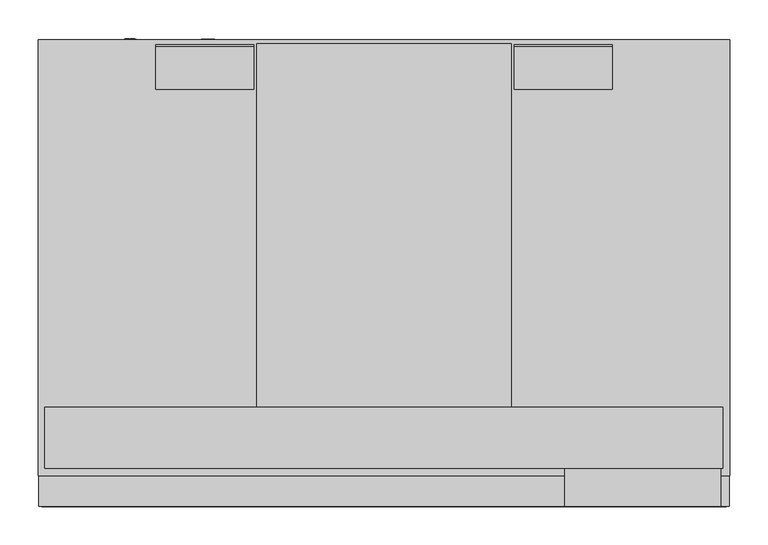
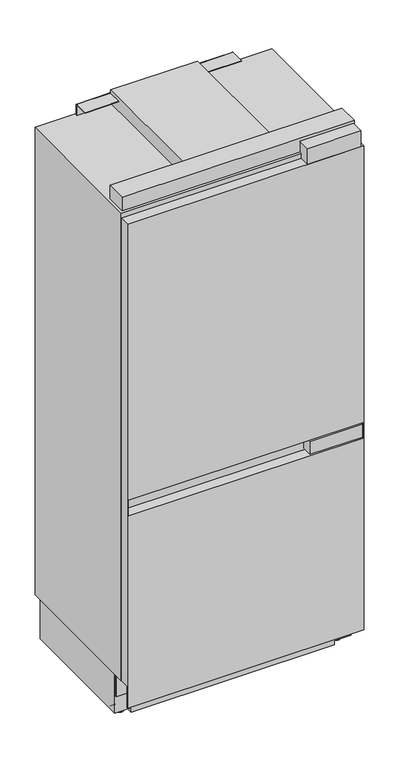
"""IFC4 building model written with IfcOpenShell, lengths in millimetres: proxy geometry, 12489480_USA_KFMC3642_R : 38364200_USA_12489480_KFMC3642_R."""

from ifc_helpers import new_model, si_unit, point, frame, frame_2d, origin, place, context, project, spatial, polyline, circle_curve, trimmed, segment, composite_curve, outline, extrude, faceted_brep, source, transform, mapped, element, save
from ifc_brep_helpers import plane_surface, cylinder_surface, advanced_brep


def specialty_equipment_6e2b65a7(model_context):
    return source(origin(), model_context, "Body", "SolidModel", [
        extrude(outline(polyline([(444.5, 19.5805006), (244.5, 19.5805006), (244.5, 59.5250826), (444.5, 59.5250826), (444.5, 19.5805006)])), frame((0.0, 0.0, 878.4), z_axis=(0.0, 0.0, 1.0), x_axis=(1.0, 0.0, 0.0)), (0.0, 0.0, 1.0), 50.4801375),
        faceted_brep([(450.5, 19.5805006, 2048.9273907), (450.5, 19.5805006, 100.0958717), (450.5, 22.474204, 100.0958717), (450.5, 22.474204, 187.4499998), (450.5, 95.0, 187.4499998), (450.5, 95.0, 100.0958717), (450.5, 99.0001378, 100.0958717), (450.5, 99.0001378, 2048.9273907), (-450.5, 19.5805006, 2048.9273907), (-450.5, 99.0001378, 2048.9273907), (-450.5, 99.0001378, 100.0958717), (-450.5, 95.0, 100.0958717), (-450.5, 95.0, 187.4499998), (-450.5, 22.474204, 187.4499998), (-450.5, 22.474204, 100.0958717), (-450.5, 19.5805006, 100.0958717), (-446.5, 19.5805006, 934.8801375), (446.5, 19.5805006, 934.8801375), (446.5, 19.5805006, 872.4), (-446.5, 19.5805006, 872.4), (446.5, 93.7083842, 934.8801375), (-446.5, 93.7083842, 934.8801375), (-446.5, 93.7083842, 872.4), (446.5, 93.7083842, 872.4)], [[[0, 1, 2, 3, 4, 5, 6, 7]], [[8, 9, 10, 11, 12, 13, 14, 15]], [[1, 0, 8, 15], [16, 17, 18, 19]], [[1, 15, 14, 2]], [[10, 6, 5, 11]], [[7, 6, 10, 9]], [[0, 7, 9, 8]], [[13, 3, 2, 14]], [[4, 12, 11, 5]], [[3, 13, 12, 4]], [[20, 21, 22, 23]], [[21, 20, 17, 16]], [[22, 21, 16, 19]], [[23, 22, 19, 18]], [[20, 23, 18, 17]]]),
        extrude(outline(polyline([(439.4072021, 19.5805006), (235.6444763, 19.5805006), (235.6444763, 69.0), (439.4072021, 69.0), (439.4072021, 19.5805006)])), frame((0.0, 0.0, 2048.9273907), z_axis=(0.0, 0.0, 1.0), x_axis=(1.0, 0.0, 0.0)), (0.0, 0.0, 1.0), 63.9078998),
        extrude(outline(composite_curve([segment(trimmed(circle_curve(frame_2d((619.3046941, 2111.8999939)), 2.5), [point((619.3046941, 2114.3999939))], [point((621.8046941, 2111.8999939))], False, "CARTESIAN"), True, "CONTINUOUS"), segment(polyline([(621.8046941, 2111.8999939), (621.8046941, 2068.8999998), (619.3046941, 2068.8999998), (619.3046941, 2112.2000427), (563.7854458, 2112.2000427), (563.7854458, 2114.3999939), (619.3046941, 2114.3999939)]), True, "CONTINUOUS")], self_intersect=False)), frame((170.0666274, 0.0, 0.0), z_axis=(1.0, 0.0, 0.0), x_axis=(0.0, 1.0, 0.0)), (0.0, 0.0, 1.0), 127.807223),
        extrude(outline(composite_curve([segment(trimmed(circle_curve(frame_2d((619.3046941, 2111.8999939)), 2.5), [point((619.3046941, 2114.3999939))], [point((621.8046941, 2111.8999939))], False, "CARTESIAN"), True, "CONTINUOUS"), segment(polyline([(621.8046941, 2111.8999939), (621.8046941, 2068.8999998), (619.3046941, 2068.8999998), (619.3046941, 2112.2000427), (563.7854458, 2112.2000427), (563.7854458, 2114.3999939), (619.3046941, 2114.3999939)]), True, "CONTINUOUS")], self_intersect=False)), frame((-297.8738504, 0.0, 0.0), z_axis=(1.0, 0.0, 0.0), x_axis=(0.0, 1.0, 0.0)), (0.0, 0.0, 1.0), 127.807223),
        faceted_brep([(451.0, 628.6068181, 2068.8999998), (-451.0, 628.6068181, 2068.8999998), (-451.0, 59.5250826, 2068.8999998), (451.0, 59.5250826, 2068.8999998), (451.0, 628.6068181, 187.4499998), (451.0, 59.5250826, 187.4499998), (-451.0, 59.5250826, 187.4499998), (-451.0, 628.6068181, 187.4499998), (-402.0265198, 59.5250826, 1999.0), (402.0265198, 59.5250826, 1999.0), (402.0265198, 59.5250826, 920.0), (-402.0265198, 59.5250826, 920.0), (-402.0265198, 59.5250826, 777.0), (402.0265198, 59.5250826, 777.0), (402.0265198, 59.5250826, 250.0), (-402.0265198, 59.5250826, 250.0), (402.0265198, 551.4500008, 1999.0), (-402.0265198, 551.4500008, 1999.0), (-402.0265198, 551.4500008, 920.0), (402.0265198, 551.4500008, 920.0), (402.0265198, 535.9500008, 777.0), (-402.0265198, 535.9500008, 777.0), (-402.0265198, 535.9500008, 250.0), (402.0265198, 535.9500008, 250.0)], [[[0, 1, 2, 3]], [[4, 5, 6, 7]], [[0, 3, 5, 4]], [[3, 2, 6, 5], [8, 9, 10, 11], [12, 13, 14, 15]], [[2, 1, 7, 6]], [[1, 0, 4, 7]], [[16, 17, 18, 19]], [[17, 16, 9, 8]], [[18, 17, 8, 11]], [[19, 18, 11, 10]], [[16, 19, 10, 9]], [[20, 21, 22, 23]], [[21, 20, 13, 12]], [[22, 21, 12, 15]], [[23, 22, 15, 14]], [[20, 23, 14, 13]]]),
        advanced_brep(
        [(-449.5, 599.2160102, 187.4499998), (449.5, 599.2160102, 187.4499998), (449.5, 599.2160102, 27.500001), (387.3898346, 599.2160102, 27.500001), (387.3898346, 599.2160102, 10.4), (-387.3898346, 599.2160102, 10.4), (-387.3898346, 599.2160102, 27.500001), (-449.5, 599.2160102, 27.500001), (449.5, 104.7548689, 187.4499998), (-449.5, 104.7548689, 187.4499998), (-449.5, 104.7548689, 27.500001), (-387.3898346, 104.7548689, 27.500001), (-387.3898346, 104.7548689, 10.4), (387.3898346, 104.7548689, 10.4), (387.3898346, 104.7548689, 27.500001), (449.5, 104.7548689, 27.500001), (-406.4950732, 165.8982312, 25.006546), (-406.4950732, 215.9113232, 25.006546), (-406.4950732, 215.7866989, 27.500001), (-406.4950732, 166.0228555, 27.500001), (-406.4950732, 488.6286933, 25.006546), (-406.4950732, 538.6417854, 25.006546), (-406.4950732, 538.517161, 27.500001), (-406.4950732, 488.7533177, 27.500001), (-424.0, 215.9113232, 25.006546), (-424.0, 165.8982312, 25.006546), (-424.0, 166.0228555, 27.500001), (-424.0, 215.7866989, 27.500001), (-424.0, 538.6417854, 25.006546), (-424.0, 488.6286933, 25.006546), (-424.0, 488.7533177, 27.500001), (-424.0, 538.517161, 27.500001), (424.0, 165.898139, 25.006546), (424.0, 215.911231, 25.006546), (424.0, 215.7866067, 27.500001), (424.0, 166.0227633, 27.500001), (424.0, 488.6286933, 25.006546), (424.0, 538.6417854, 25.006546), (424.0, 538.517161, 27.500001), (424.0, 488.7533177, 27.500001), (406.4950732, 215.911231, 25.006546), (406.4950732, 165.898139, 25.006546), (406.4950732, 166.0227633, 27.500001), (406.4950732, 215.7866067, 27.500001), (406.4950732, 538.6417854, 25.006546), (406.4950732, 488.6286933, 25.006546), (406.4950732, 488.7533177, 27.500001), (406.4950732, 538.517161, 27.500001)],
        [
            (0, 1),
            (1, 2),
            (2, 3),
            (3, 4),
            (4, 5),
            (5, 6),
            (6, 7),
            (7, 0),
            (8, 9),
            (9, 10),
            (10, 11),
            (11, 12),
            (12, 13),
            (13, 14),
            (14, 15),
            (15, 8),
            (0, 9),
            (8, 1),
            (7, 10),
            (4, 13),
            (12, 5),
            (15, 2),
            (16, 17, circle_curve(frame((-406.4950732, 190.9047772, 25.006546), z_axis=(1.0, 0.0, 0.0), x_axis=(0.0, 1.0, 0.0)), 25.006546)),
            (17, 18, circle_curve(frame((-406.4950732, 190.9047772, 25.006546), z_axis=(1.0, 0.0, 0.0), x_axis=(0.0, 1.0, 0.0)), 25.006546)),
            (18, 19),
            (19, 16, circle_curve(frame((-406.4950732, 190.9047772, 25.006546), z_axis=(1.0, 0.0, 0.0), x_axis=(0.0, 1.0, 0.0)), 25.006546)),
            (20, 21, circle_curve(frame((-406.4950732, 513.6352393, 25.006546), z_axis=(1.0, 0.0, 0.0), x_axis=(0.0, 1.0, 0.0)), 25.006546)),
            (21, 22, circle_curve(frame((-406.4950732, 513.6352393, 25.006546), z_axis=(1.0, 0.0, 0.0), x_axis=(0.0, 1.0, 0.0)), 25.006546)),
            (22, 23),
            (23, 20, circle_curve(frame((-406.4950732, 513.6352393, 25.006546), z_axis=(1.0, 0.0, 0.0), x_axis=(0.0, 1.0, 0.0)), 25.006546)),
            (24, 25, circle_curve(frame((-424.0, 190.9047772, 25.006546), z_axis=(-1.0, 0.0, 0.0), x_axis=(0.0, 1.0, 0.0)), 25.006546)),
            (25, 26, circle_curve(frame((-424.0, 190.9047772, 25.006546), z_axis=(-1.0, 0.0, 0.0), x_axis=(0.0, 1.0, 0.0)), 25.006546)),
            (26, 27),
            (27, 24, circle_curve(frame((-424.0, 190.9047772, 25.006546), z_axis=(-1.0, 0.0, 0.0), x_axis=(0.0, 1.0, 0.0)), 25.006546)),
            (28, 29, circle_curve(frame((-424.0, 513.6352393, 25.006546), z_axis=(-1.0, 0.0, 0.0), x_axis=(0.0, 1.0, 0.0)), 25.006546)),
            (29, 30, circle_curve(frame((-424.0, 513.6352393, 25.006546), z_axis=(-1.0, 0.0, 0.0), x_axis=(0.0, 1.0, 0.0)), 25.006546)),
            (30, 31),
            (31, 28, circle_curve(frame((-424.0, 513.6352393, 25.006546), z_axis=(-1.0, 0.0, 0.0), x_axis=(0.0, 1.0, 0.0)), 25.006546)),
            (16, 25),
            (24, 17),
            (20, 29),
            (28, 21),
            (32, 33, circle_curve(frame((424.0, 190.904685, 25.006546), z_axis=(1.0, 0.0, 0.0), x_axis=(0.0, 1.0, 0.0)), 25.006546)),
            (33, 34, circle_curve(frame((424.0, 190.904685, 25.006546), z_axis=(1.0, 0.0, 0.0), x_axis=(0.0, 1.0, 0.0)), 25.006546)),
            (34, 35),
            (35, 32, circle_curve(frame((424.0, 190.904685, 25.006546), z_axis=(1.0, 0.0, 0.0), x_axis=(0.0, 1.0, 0.0)), 25.006546)),
            (36, 37, circle_curve(frame((424.0, 513.6352393, 25.006546), z_axis=(1.0, 0.0, 0.0), x_axis=(0.0, 1.0, 0.0)), 25.006546)),
            (37, 38, circle_curve(frame((424.0, 513.6352393, 25.006546), z_axis=(1.0, 0.0, 0.0), x_axis=(0.0, 1.0, 0.0)), 25.006546)),
            (38, 39),
            (39, 36, circle_curve(frame((424.0, 513.6352393, 25.006546), z_axis=(1.0, 0.0, 0.0), x_axis=(0.0, 1.0, 0.0)), 25.006546)),
            (40, 41, circle_curve(frame((406.4950732, 190.904685, 25.006546), z_axis=(-1.0, 0.0, 0.0), x_axis=(0.0, 1.0, 0.0)), 25.006546)),
            (41, 42, circle_curve(frame((406.4950732, 190.904685, 25.006546), z_axis=(-1.0, 0.0, 0.0), x_axis=(0.0, 1.0, 0.0)), 25.006546)),
            (42, 43),
            (43, 40, circle_curve(frame((406.4950732, 190.904685, 25.006546), z_axis=(-1.0, 0.0, 0.0), x_axis=(0.0, 1.0, 0.0)), 25.006546)),
            (44, 45, circle_curve(frame((406.4950732, 513.6352393, 25.006546), z_axis=(-1.0, 0.0, 0.0), x_axis=(0.0, 1.0, 0.0)), 25.006546)),
            (45, 46, circle_curve(frame((406.4950732, 513.6352393, 25.006546), z_axis=(-1.0, 0.0, 0.0), x_axis=(0.0, 1.0, 0.0)), 25.006546)),
            (46, 47),
            (47, 44, circle_curve(frame((406.4950732, 513.6352393, 25.006546), z_axis=(-1.0, 0.0, 0.0), x_axis=(0.0, 1.0, 0.0)), 25.006546)),
            (32, 41),
            (40, 33),
            (36, 45),
            (44, 37),
            (19, 26),
            (27, 18),
            (23, 30),
            (31, 22),
            (43, 34),
            (35, 42),
            (47, 38),
            (39, 46),
            (11, 6),
            (14, 3),
        ],
        [
            plane_surface(frame((-449.5, 599.2160102, 187.4499998), z_axis=(0.0, 1.0, 0.0), x_axis=(1.0, 0.0, 0.0))),
            plane_surface(frame((-449.5, 104.7548689, 187.4499998), z_axis=(0.0, -1.0, 0.0), x_axis=(-1.0, 0.0, 0.0))),
            plane_surface(frame((449.5, 104.7548689, 187.4499998), z_axis=(0.0, 0.0, 1.0), x_axis=(0.0, 1.0, 0.0))),
            plane_surface(frame((-449.5, 104.7548689, 187.4499998), z_axis=(-1.0, 0.0, 0.0), x_axis=(0.0, 1.0, 0.0))),
            plane_surface(frame((-449.5, 104.7548689, 10.4), z_axis=(0.0, 0.0, -1.0), x_axis=(0.0, 1.0, 0.0))),
            plane_surface(frame((449.5, 104.7548689, 10.4), z_axis=(1.0, 0.0, 0.0), x_axis=(0.0, 1.0, 0.0))),
            plane_surface(frame((-406.4950732, 215.9113232, 25.006546), z_axis=(1.0, 0.0, 0.0), x_axis=(0.0, 0.0, 1.0))),
            plane_surface(frame((-424.0, 215.9113232, 25.006546), z_axis=(-1.0, 0.0, 0.0), x_axis=(0.0, 0.0, -1.0))),
            cylinder_surface(frame((-424.0, 190.9047772, 25.006546), z_axis=(1.0, 0.0, 0.0), x_axis=(0.0, 1.0, 0.0)), 25.006546),
            cylinder_surface(frame((0.0, 513.6352393, 25.006546), z_axis=(1.0, 0.0, 0.0), x_axis=(0.0, 1.0, 0.0)), 25.006546),
            plane_surface(frame((424.0, 215.911231, 25.006546), z_axis=(1.0, 0.0, 0.0), x_axis=(0.0, 0.0, 1.0))),
            plane_surface(frame((406.4950732, 215.911231, 25.006546), z_axis=(-1.0, 0.0, 0.0), x_axis=(0.0, 0.0, -1.0))),
            cylinder_surface(frame((424.0, 190.904685, 25.006546), z_axis=(-1.0, 0.0, 0.0), x_axis=(0.0, 1.0, 0.0)), 25.006546),
            cylinder_surface(frame((0.0, 513.6352393, 25.006546), z_axis=(-1.0, 0.0, 0.0), x_axis=(0.0, 1.0, 0.0)), 25.006546),
            plane_surface(frame((-387.3898346, -429.4357797, 0.0), z_axis=(-1.0, 0.0, 0.0), x_axis=(0.0, 1.0, 0.0))),
            plane_surface(frame((-387.3898346, -429.4357797, 27.500001), z_axis=(0.0, 0.0, -1.0), x_axis=(0.0, 1.0, 0.0))),
            plane_surface(frame((451.0, -429.4357797, 27.500001), z_axis=(0.0, 0.0, -1.0), x_axis=(0.0, 1.0, 0.0))),
            plane_surface(frame((387.3898346, -429.4357797, 27.500001), z_axis=(1.0, 0.0, 0.0), x_axis=(0.0, 1.0, 0.0))),
        ],
        [
            (0, [[1, 2, 3, 4, 5, 6, 7, 8]]),
            (1, [[9, 10, 11, 12, 13, 14, 15, 16]]),
            (2, [[-1, 17, -9, 18]]),
            (3, [[-17, -8, 19, -10]]),
            (4, [[-5, 20, -13, 21]]),
            (5, [[-18, -16, 22, -2]]),
            (6, [[23, 24, 25, 26]]),
            (6, [[27, 28, 29, 30]]),
            (7, [[31, 32, 33, 34]]),
            (7, [[35, 36, 37, 38]]),
            (8, [[-23, 39, -31, 40]]),
            (9, [[-27, 41, -35, 42]]),
            (10, [[43, 44, 45, 46]]),
            (10, [[47, 48, 49, 50]]),
            (11, [[51, 52, 53, 54]]),
            (11, [[55, 56, 57, 58]]),
            (12, [[-43, 59, -51, 60]]),
            (13, [[-47, 61, -55, 62]]),
            (8, [[-39, -26, 63, -32]]),
            (8, [[-40, -34, 64, -24]]),
            (9, [[-41, -30, 65, -36]]),
            (9, [[-42, -38, 66, -28]]),
            (12, [[-60, -54, 67, -44]]),
            (12, [[-59, -46, 68, -52]]),
            (13, [[-62, -58, 69, -48]]),
            (13, [[-61, -50, 70, -56]]),
            (14, [[71, -6, -21, -12]]),
            (15, [[-71, -11, -19, -7], [-25, -64, -33, -63], [-29, -66, -37, -65]]),
            (16, [[72, -3, -22, -15], [-45, -67, -53, -68], [-49, -69, -57, -70]]),
            (17, [[-72, -14, -20, -4]]),
        ],
    ),
        extrude(outline(composite_curve([segment(trimmed(circle_curve(frame_2d((-413.6, 136.7)), 15.0), [point((-428.6, 136.7))], [point((-398.6, 136.7))], False, "CARTESIAN"), True, "CONTINUOUS"), segment(trimmed(circle_curve(frame_2d((-413.6, 136.7)), 15.0), [point((-398.6, 136.7))], [point((-428.6, 136.7))], False, "CARTESIAN"), True, "CONTINUOUS")], self_intersect=False)), frame((0.0, 0.0, 10.4), z_axis=(0.0, 0.0, 1.0), x_axis=(1.0, 0.0, 0.0)), (0.0, 0.0, 1.0), 3.4999939),
        extrude(outline(composite_curve([segment(trimmed(circle_curve(frame_2d((413.6, 136.7)), 15.0), [point((398.6, 136.7))], [point((428.6, 136.7))], False, "CARTESIAN"), True, "CONTINUOUS"), segment(trimmed(circle_curve(frame_2d((413.6, 136.7)), 15.0), [point((428.6, 136.7))], [point((398.6, 136.7))], False, "CARTESIAN"), True, "CONTINUOUS")], self_intersect=False)), frame((0.0, 0.0, 10.4), z_axis=(0.0, 0.0, 1.0), x_axis=(1.0, 0.0, 0.0)), (0.0, 0.0, 1.0), 3.4999939),
        extrude(outline(composite_curve([segment(trimmed(circle_curve(frame_2d((413.6, 136.7)), 10.0), [point((403.6, 136.7))], [point((423.6, 136.7))], False, "CARTESIAN"), True, "CONTINUOUS"), segment(trimmed(circle_curve(frame_2d((413.6, 136.7)), 10.0), [point((423.6, 136.7))], [point((403.6, 136.7))], False, "CARTESIAN"), True, "CONTINUOUS")], self_intersect=False)), frame((0.0, 0.0, 13.8999939), z_axis=(0.0, 0.0, 1.0), x_axis=(1.0, 0.0, 0.0)), (0.0, 0.0, 1.0), 13.6000071),
        extrude(outline(composite_curve([segment(trimmed(circle_curve(frame_2d((-413.6, 136.7)), 10.0), [point((-423.6, 136.7))], [point((-403.6, 136.7))], False, "CARTESIAN"), True, "CONTINUOUS"), segment(trimmed(circle_curve(frame_2d((-413.6, 136.7)), 10.0), [point((-403.6, 136.7))], [point((-423.6, 136.7))], False, "CARTESIAN"), True, "CONTINUOUS")], self_intersect=False)), frame((0.0, 0.0, 13.8999939), z_axis=(0.0, 0.0, 1.0), x_axis=(1.0, 0.0, 0.0)), (0.0, 0.0, 1.0), 13.6000071),
        faceted_brep([(166.0, 623.4547186, 2122.8999939), (-166.0, 623.4547186, 2122.8999939), (-166.0, 149.0, 2122.8999939), (166.0, 149.0, 2122.8999939), (-166.0, 623.4547186, 2068.8999998), (166.0, 623.4547186, 2068.8999998), (166.0, 149.0, 2068.8999998), (442.1341127, 149.0, 2068.8999998), (442.1341127, 69.0, 2068.8999998), (-442.7652816, 69.0, 2068.8999998), (-442.7652816, 149.0, 2068.8999998), (-166.0, 149.0, 2068.8999998), (442.1341127, 69.0, 2124.5509637), (442.1341127, 149.0, 2124.5509637), (-442.7652816, 69.0, 2124.5509637), (-442.7652816, 149.0, 2124.5509637)], [[[0, 1, 2, 3]], [[4, 5, 6, 7, 8, 9, 10, 11]], [[5, 0, 3, 6]], [[1, 0, 5, 4]], [[1, 4, 11, 2]], [[12, 8, 7, 13]], [[14, 15, 10, 9]], [[8, 12, 14, 9]], [[13, 7, 6, 3, 2, 11, 10, 15]], [[12, 13, 15, 14]]]),
        extrude(outline(composite_curve([segment(trimmed(circle_curve(frame_2d((68.8909912, -331.0)), 8.0), [point((68.8909912, -339.0))], [point((68.8909912, -323.0))], False, "CARTESIAN"), True, "CONTINUOUS"), segment(trimmed(circle_curve(frame_2d((68.8909912, -331.0)), 8.0), [point((68.8909912, -323.0))], [point((68.8909912, -339.0))], False, "CARTESIAN"), True, "CONTINUOUS")], self_intersect=False)), frame((0.0, 599.2160102, 0.0), z_axis=(0.0, 1.0, 0.0), x_axis=(0.0, 0.0, 1.0)), (0.0, 0.0, 1.0), 30.0),
        extrude(outline(polyline([(64.7404068, -325.0981918), (72.7769116, -325.0981918), (72.7769116, -330.8744296), (71.7723485, -330.8744296), (71.7723485, -326.1027549), (69.3865111, -326.1027549), (69.3865111, -330.6232888), (68.381948, -330.6232888), (68.381948, -326.1027549), (65.7449699, -326.1027549), (65.7449699, -331.0), (64.7404068, -331.0), (64.7404068, -325.0981918)])), frame((0.0, 629.2160102, 0.0), z_axis=(0.0, 1.0, 0.0), x_axis=(0.0, 0.0, 1.0)), (0.0, 0.0, 1.0), 1.0),
        extrude(outline(polyline([(64.7404068, -332.5068447), (72.7769116, -332.5068447), (72.7769116, -333.5114078), (65.7449699, -333.5114078), (65.7449699, -337.5296602), (64.7404068, -337.5296602), (64.7404068, -332.5068447)])), frame((0.0, 629.2160102, 0.0), z_axis=(0.0, 1.0, 0.0), x_axis=(0.0, 0.0, 1.0)), (0.0, 0.0, 1.0), 1.0),
        extrude(outline(composite_curve([segment(trimmed(circle_curve(frame_2d((38.8909912, -229.0)), 8.0), [point((38.8909912, -237.0))], [point((38.8909912, -221.0))], False, "CARTESIAN"), True, "CONTINUOUS"), segment(trimmed(circle_curve(frame_2d((38.8909912, -229.0)), 8.0), [point((38.8909912, -221.0))], [point((38.8909912, -237.0))], False, "CARTESIAN"), True, "CONTINUOUS")], self_intersect=False)), frame((0.0, 599.2160102, 0.0), z_axis=(0.0, 1.0, 0.0), x_axis=(0.0, 0.0, 1.0)), (0.0, 0.0, 1.0), 30.0),
        extrude(outline(polyline([(35.5144425, -229.9875487), (43.5509473, -227.795953), (43.5509473, -228.8319087), (38.2691429, -230.1033089), (36.6386899, -230.4957164), (38.0807873, -230.9155923), (43.5509473, -232.5087666), (43.5509473, -234.001877), (39.5856699, -235.159479), (36.6386899, -236.0208134), (38.222054, -236.4014486), (43.5509473, -237.684621), (43.5509473, -238.7205767), (35.5144425, -236.527019), (35.5144425, -235.4537846), (41.7144804, -233.527064), (42.5797389, -233.2582649), (41.5378971, -232.9561111), (35.5144425, -231.2000877), (35.5144425, -229.9875487)])), frame((0.0, 628.6068181, 0.0), z_axis=(0.0, 1.0, 0.0), x_axis=(0.0, 0.0, 1.0)), (0.0, 0.0, 1.0), 1.0),
        extrude(outline(polyline([(35.5144425, -221.1407225), (43.5509473, -221.1407225), (43.5509473, -222.1452856), (39.6170625, -222.1452856), (43.5509473, -226.2655639), (43.5509473, -227.6703826), (40.2468765, -224.2113109), (35.5144425, -227.795953), (35.5144425, -226.5677177), (39.5680116, -223.4990913), (38.2769911, -222.1452856), (35.5144425, -222.1452856), (35.5144425, -221.1407225)])), frame((0.0, 628.6068181, 0.0), z_axis=(0.0, 1.0, 0.0), x_axis=(0.0, 0.0, 1.0)), (0.0, 0.0, 1.0), 1.0),
    ])


if __name__ == "__main__":
    model = new_model("IFC4")
    model_context = context("Model", 3, world=origin())
    ifc_project = project(units=[si_unit("LENGTHUNIT", "METRE", prefix="MILLI")], contexts=[model_context])
    site = spatial("IfcSite", under=ifc_project)
    building = spatial("IfcBuilding", under=site)
    placement = place(None, origin())
    specialty_equipment_shape = specialty_equipment_6e2b65a7(model_context)
    element("IfcBuildingElementProxy", 1, Name="12489480_USA_KFMC3642_R : 38364200_USA_12489480_KFMC3642_R", ObjectType="12489480_USA_KFMC3642_R : 38364200_USA_12489480_KFMC3642_R", at=placement, inside=building, context=model_context, shape_type="MappedRepresentation", body=[
        mapped(specialty_equipment_shape, transform((0.0, 0.0, 0.0), x_axis=(1.0, 0.0, 0.0), y_axis=(0.0, 1.0, 0.0), z_axis=(0.0, 0.0, 1.0))),
    ])
    save(model, "model.ifc")
